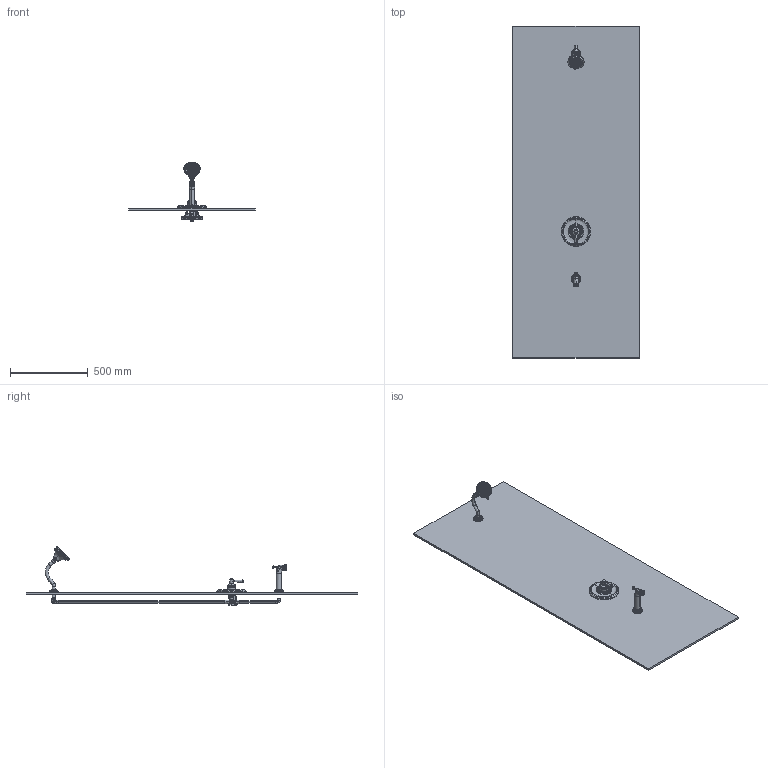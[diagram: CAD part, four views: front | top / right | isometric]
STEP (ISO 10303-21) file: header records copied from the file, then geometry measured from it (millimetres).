
FILE_DESCRIPTION (( 'STEP AP214' ), '1' );
FILE_NAME ('5892TRM.STEP', '2026-01-06T01:32:58', ( '' ), ( '' ), 'SwSTEP 2.0', 'SolidWorks 2023', '' );
FILE_SCHEMA (( 'AUTOMOTIVE_DESIGN' ));
Length unit declared in the file: inch
Products named in the file (1): 5892TRM
Bounding box: 812.8 x 2133.6 x 380.93 mm (x, y, z)
Surface area: 3797784.1 mm2 (no closed solid volume)
Topology: 0 solids, 149 shells, 612 faces, 3184 edges, 2645 vertices
Faces by surface type: cylinder 161, plane 126, bspline 121, torus 107, cone 90, sphere 7
Entity records: 61727 total; most frequent: CARTESIAN_POINT 38957, DIRECTION 4347, ORIENTED_EDGE 4051, EDGE_CURVE 3179, VERTEX_POINT 2645, AXIS2_PLACEMENT_3D 1804, CIRCLE 1312, B_SPLINE_CURVE_WITH_KNOTS 977
